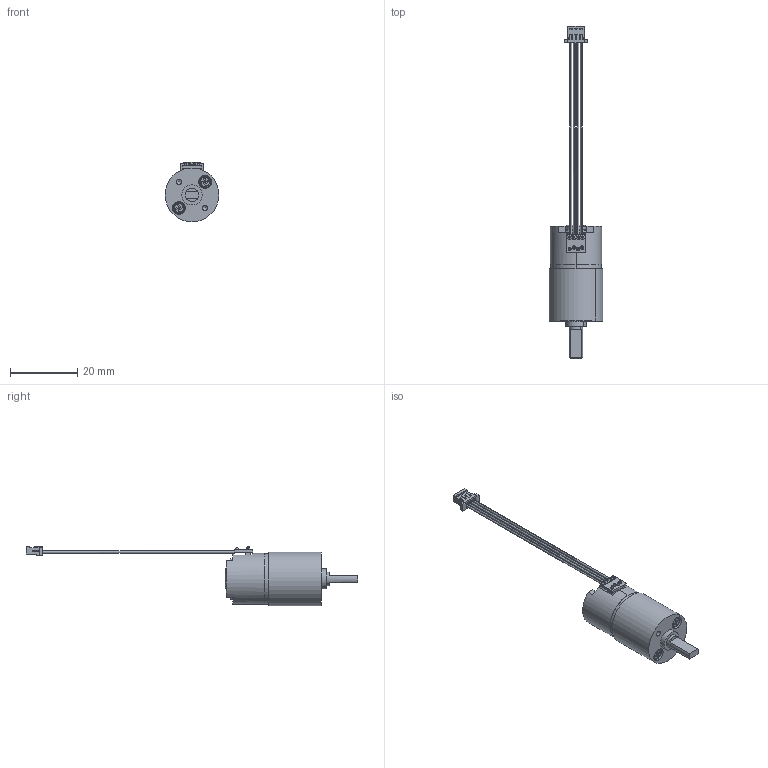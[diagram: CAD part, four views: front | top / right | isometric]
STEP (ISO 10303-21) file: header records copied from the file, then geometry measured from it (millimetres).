
FILE_DESCRIPTION (( 'STEP AP214' ), '1' );
FILE_NAME ('15SGxxR34_53.STEP', '2016-05-17T15:32:29', ( '' ), ( '' ), 'SwSTEP 2.0', 'SolidWorks 2015', '' );
FILE_SCHEMA (( 'AUTOMOTIVE_DESIGN' ));
Length unit declared in the file: millimetre
Products named in the file (4): skruv m1.7; Gearbox 34.1; PM 15SG_Med fläns; 15SGxxR34_53
Assembly tree (4 placements, depth 2):
  15SGxxR34_53
    PM 15SG_Med fläns
    Gearbox 34.1
    skruv m1.7  x2
Bounding box: 15.94 x 98.8 x 17.67 mm (x, y, z)
Volume: 5369.4 mm3; surface area: 3991 mm2
Topology: 6 solids, 6 shells, 904 faces, 2418 edges, 1586 vertices
Faces by surface type: plane 570, cylinder 176, bspline 134, torus 16, cone 8
Entity records: 38960 total; most frequent: CARTESIAN_POINT 7913, ORIENTED_EDGE 4668, DIRECTION 3987, EDGE_CURVE 2334, VECTOR 1657, LINE 1657, VERTEX_POINT 1540, AXIS2_PLACEMENT_3D 1165
